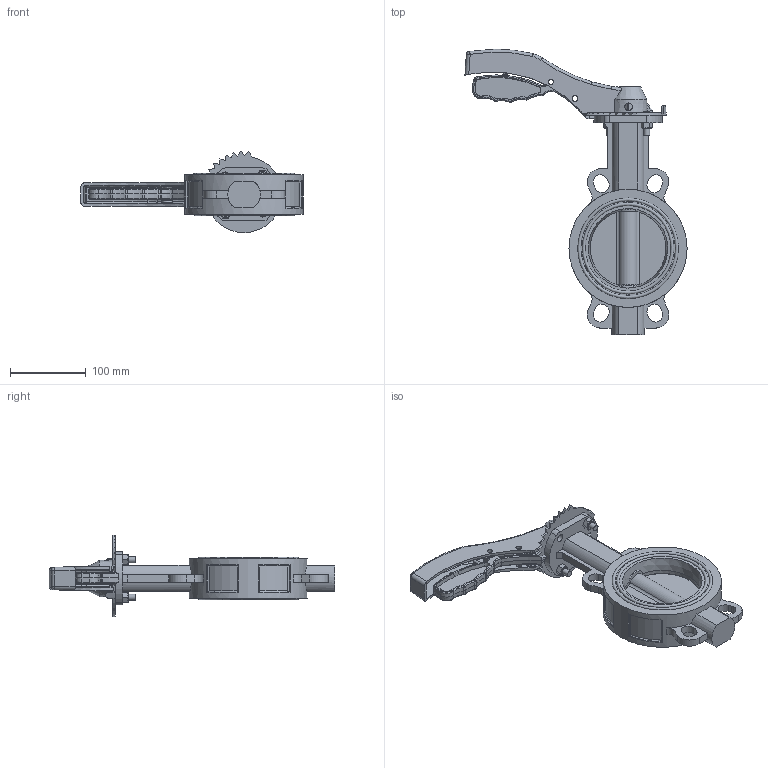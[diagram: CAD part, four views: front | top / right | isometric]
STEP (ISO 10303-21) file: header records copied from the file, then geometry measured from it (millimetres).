
FILE_DESCRIPTION (( 'STEP AP214' ), '1' );
FILE_NAME ('忒梟 勤標評概 Fig.3230-100.STEP', '2026-03-23T05:48:35', ( '' ), ( '' ), 'SwSTEP 2.0', 'SolidWorks 2024', '' );
FILE_SCHEMA (( 'AUTOMOTIVE_DESIGN' ));
Length unit declared in the file: millimetre
Products named in the file (1): 手柄 对夹蝶阀 Fig.3230-100
Bounding box: 293.5 x 376.89 x 107.39 mm (x, y, z)
Volume: 1042716 mm3; surface area: 200047.4 mm2
Topology: 1 solids, 6 shells, 1176 faces, 3320 edges, 2195 vertices
Faces by surface type: plane 764, cylinder 181, bspline 124, cone 79, torus 28
Full cylindrical faces by diameter (mm): 6.303 x1, 6.618 x3, 7.816 x2, 8 x4, 10 x4, 10.085 x1, 11.856 x2, 15.4 x2, 15.77 x2, 15.9 x1, 24.708 x1, 28 x1, 156 x1
Entity records: 60964 total; most frequent: CARTESIAN_POINT 19796, ORIENTED_EDGE 6474, DIRECTION 4901, EDGE_CURVE 3237, VERTEX_POINT 2163, LINE 2073, VECTOR 2073, AXIS2_PLACEMENT_3D 1414
